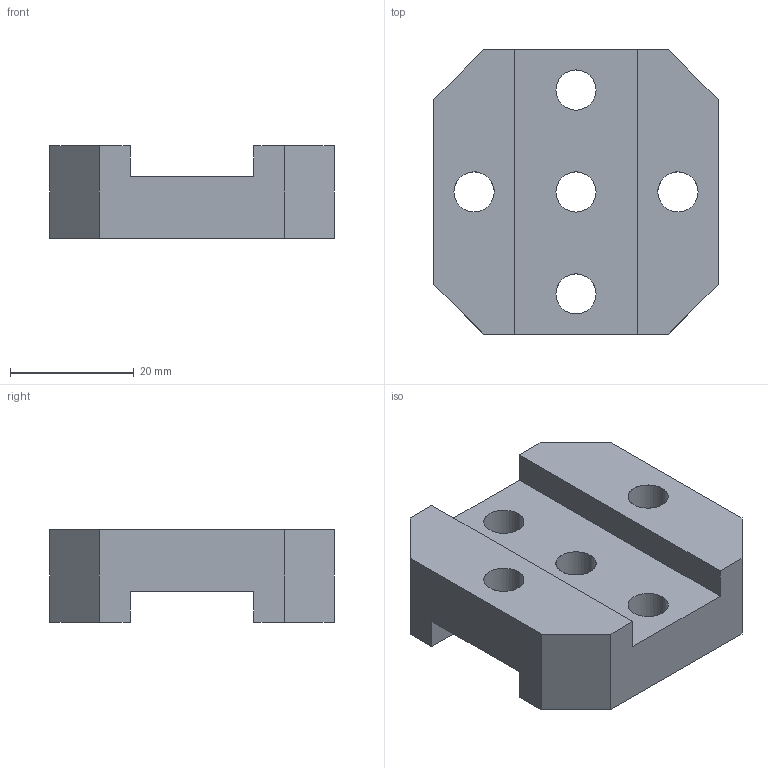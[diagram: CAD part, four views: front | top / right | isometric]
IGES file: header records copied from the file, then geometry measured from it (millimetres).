
Start section: SolidWorks IGES file using analytic representation for surfaces
Global section: file name: C:\Documents and Settings\CAD53\デスクトップ\IGES\N01911-206-1.IGS; native system: SolidWorks 2005 by SolidWorks Corporation; preprocessor: SolidWorks 2005 by SolidWorks Corporation; author: CAD53; date: 070530.084557; units: millimetre
Bounding box: 46 x 46 x 15 mm (x, y, z)
Surface area: 7561.9 mm2 (no closed solid volume)
Topology: 0 solids, 0 shells, 28 faces, 456 edges, 456 vertices
Faces by surface type: bspline 18, revolution 10
